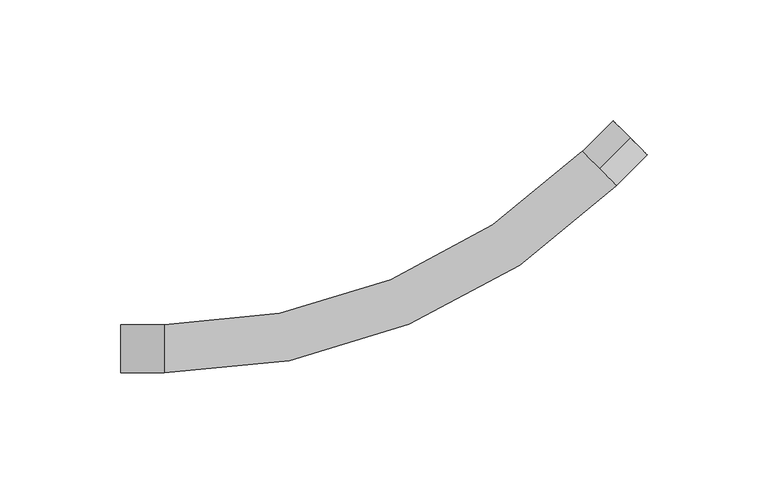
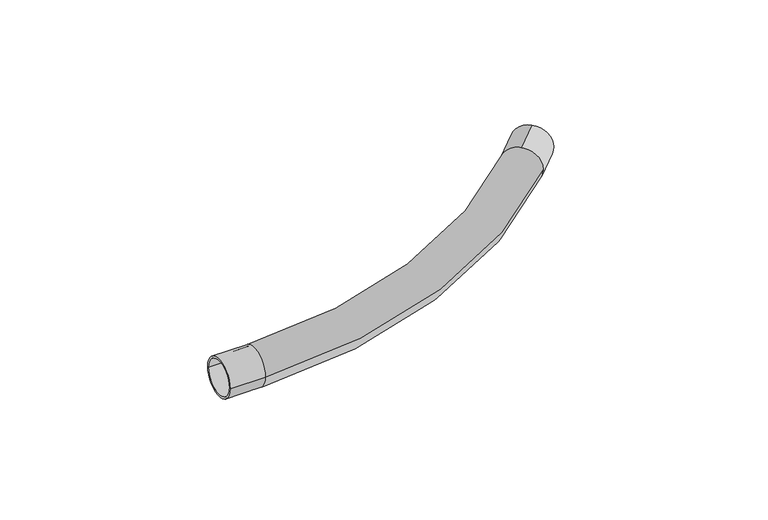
"""IFC4 building model written with IfcOpenShell, lengths in millimetres: cable carrier fitting geometry, КНС_МуфтаГибкаяТрубаТруба_IP65_DKC : Коробка."""

from ifc_helpers import new_model, si_unit, point, frame, origin, place, context, project, spatial, polyline, circle_curve, ellipse_curve, trimmed, source, transform, mapped, element, save
from ifc_brep_helpers import plane_surface, cylinder_surface, revolved_surface, advanced_brep


def cable_carrier_fitting_319fce00(model_context):
    return source(origin(), model_context, "Body", "AdvancedBrep", [
        advanced_brep(
        [(-123.4786175, -10.0, 0.0), (-123.4786175, 10.0, 0.0), (-123.4786175, -9.0, 0.0), (-123.4786175, 9.0, 0.0), (-105.4786175, -10.0, 0.0), (-105.4786175, 10.0, 0.0), (-105.4786175, -9.0, 0.0), (-105.4786175, 9.0, 0.0), (74.5846457, 74.5846457, 9.0), (74.5846457, 74.5846457, -9.0), (81.6557135, 67.5135779, 0.0), (74.5846457, 74.5846457, 10.0), (67.5135779, 81.6557135, 0.0), (74.5846457, 74.5846457, -10.0), (87.3125678, 87.3125678, -10.0), (87.3125678, 87.3125678, 10.0), (87.3125678, 87.3125678, -9.0), (87.3125678, 87.3125678, 9.0)],
        [
            (0, 1, circle_curve(frame((-123.4786175, 0.0, 0.0), z_axis=(-1.0, 0.0, 0.0), x_axis=(0.0, 1.0, 0.0)), 10.0)),
            (1, 0, circle_curve(frame((-123.4786175, 0.0, 0.0), z_axis=(-1.0, 0.0, 0.0), x_axis=(0.0, 1.0, 0.0)), 10.0)),
            (2, 3, circle_curve(frame((-123.4786175, 0.0, 0.0), z_axis=(1.0, 0.0, 0.0), x_axis=(0.0, 1.0, 0.0)), 9.0)),
            (3, 2, circle_curve(frame((-123.4786175, 0.0, 0.0), z_axis=(1.0, 0.0, 0.0), x_axis=(0.0, 1.0, 0.0)), 9.0)),
            (0, 4),
            (4, 5, circle_curve(frame((-105.4786175, 0.0, 0.0), z_axis=(-1.0, 0.0, 0.0), x_axis=(0.0, 1.0, 0.0)), 10.0)),
            (5, 1),
            (5, 4, circle_curve(frame((-105.4786175, 0.0, 0.0), z_axis=(-1.0, 0.0, 0.0), x_axis=(0.0, 1.0, 0.0)), 10.0)),
            (2, 6),
            (6, 7, circle_curve(frame((-105.4786175, 0.0, 0.0), z_axis=(1.0, 0.0, 0.0), x_axis=(0.0, 1.0, 0.0)), 9.0)),
            (7, 3),
            (7, 6, circle_curve(frame((-105.4786175, 0.0, 0.0), z_axis=(1.0, 0.0, 0.0), x_axis=(0.0, 1.0, 0.0)), 9.0)),
            (8, 9, circle_curve(frame((74.5846457, 74.5846457, 0.0), z_axis=(0.7071067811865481, 0.707106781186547, 0.0), x_axis=(0.0, 0.0, 1.0)), 9.0)),
            (9, 8, circle_curve(frame((74.5846457, 74.5846457, 0.0), z_axis=(0.7071067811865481, 0.707106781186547, 0.0), x_axis=(0.0, 0.0, 1.0)), 9.0)),
            (4, 10, circle_curve(frame((-105.4786175, 254.6479089, 0.0), z_axis=(0.0, 0.0, 1.0), x_axis=(0.7071067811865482, -0.7071067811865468, 0.0)), 264.6479089)),
            (10, 11, circle_curve(frame((74.5846457, 74.5846457, 0.0), z_axis=(-0.7071067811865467, -0.7071067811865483, 0.0), x_axis=(0.7071067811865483, -0.7071067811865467, 0.0)), 10.0)),
            (11, 12, circle_curve(frame((74.5846457, 74.5846457, 0.0), z_axis=(-0.7071067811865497, -0.7071067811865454, 0.0), x_axis=(0.7071067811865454, -0.7071067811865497, 0.0)), 10.0)),
            (12, 5, circle_curve(frame((-105.4786175, 254.6479089, 0.0), z_axis=(0.0, 0.0, -1.0), x_axis=(0.7071067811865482, -0.7071067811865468, 0.0)), 244.6479089)),
            (12, 13, circle_curve(frame((74.5846457, 74.5846457, 0.0), z_axis=(-0.7071067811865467, -0.7071067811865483, 0.0), x_axis=(0.7071067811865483, -0.7071067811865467, 0.0)), 10.0)),
            (13, 10, circle_curve(frame((74.5846457, 74.5846457, 0.0), z_axis=(-0.7071067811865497, -0.7071067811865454, 0.0), x_axis=(0.7071067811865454, -0.7071067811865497, 0.0)), 10.0)),
            (14, 15, circle_curve(frame((87.3125678, 87.3125678, 0.0), z_axis=(0.7071067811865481, 0.707106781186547, 0.0), x_axis=(0.0, 0.0, 1.0)), 10.0)),
            (15, 14, circle_curve(frame((87.3125678, 87.3125678, 0.0), z_axis=(0.7071067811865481, 0.707106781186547, 0.0), x_axis=(0.0, 0.0, 1.0)), 10.0)),
            (16, 17, circle_curve(frame((87.3125678, 87.3125678, 0.0), z_axis=(-0.7071067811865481, -0.707106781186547, 0.0), x_axis=(0.0, 0.0, 1.0)), 9.0)),
            (17, 16, circle_curve(frame((87.3125678, 87.3125678, 0.0), z_axis=(-0.7071067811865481, -0.707106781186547, 0.0), x_axis=(0.0, 0.0, 1.0)), 9.0)),
            (14, 13),
            (11, 15),
            (16, 9),
            (8, 17),
        ],
        [
            plane_surface(frame((-123.4786175, 0.0, 0.0), z_axis=(-1.0, 0.0, 0.0), x_axis=(0.0, 0.0, 1.0))),
            cylinder_surface(frame((-123.4786175, 0.0, 0.0), z_axis=(-1.0, 0.0, 0.0), x_axis=(0.0, 1.0, 0.0)), 10.0),
            revolved_surface(polyline([(-105.4786175, 9.0, 0.0), (-123.4786175, 9.0, 0.0)]), (-123.4786175, 0.0, 0.0), (1.0, 0.0, 0.0)),
            plane_surface(frame((74.5846457, 74.5846457, 0.0), z_axis=(0.7071067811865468, 0.7071067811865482, 0.0), x_axis=(0.0, 0.0, 1.0))),
            plane_surface(frame((-105.4786175, 0.0, 0.0), z_axis=(-1.0, 0.0, 0.0), x_axis=(0.0, 0.0, 1.0))),
            revolved_surface(trimmed(ellipse_curve(frame((74.5846457, 74.5846457, 0.0), z_axis=(0.7071067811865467, 0.7071067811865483, 0.0), x_axis=(0.7071067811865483, -0.7071067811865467, 0.0)), 10.0, 10.0), [point((67.5135779, 81.6557135, 0.0))], [point((81.6557135, 67.5135779, 0.0))], True, "CARTESIAN"), (-105.4786175, 254.6479089, 0.0), (0.0, 0.0, -1.0)),
            revolved_surface(trimmed(ellipse_curve(frame((74.5846457, 74.5846457, 0.0), z_axis=(0.7071067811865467, 0.7071067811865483, 0.0), x_axis=(0.7071067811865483, -0.7071067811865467, 0.0)), 10.0, 10.0), [point((81.6557135, 67.5135779, 0.0))], [point((67.5135779, 81.6557135, 0.0))], True, "CARTESIAN"), (-105.4786175, 254.6479089, 0.0), (0.0, 0.0, -1.0)),
            plane_surface(frame((87.3125678, 87.3125678, 10.0), z_axis=(0.707106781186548, 0.7071067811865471, 0.0), x_axis=(0.7071067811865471, -0.707106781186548, 0.0))),
            cylinder_surface(frame((74.5846457, 74.5846457, 0.0), z_axis=(0.7071067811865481, 0.707106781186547, 0.0), x_axis=(0.0, 0.0, 1.0)), 10.0),
            revolved_surface(polyline([(74.5846457, 74.5846457, 9.0), (87.31256780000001, 87.31256779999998, 9.0)]), (74.5846457, 74.5846457, 0.0), (-0.7071067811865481, -0.707106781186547, 0.0)),
        ],
        [
            (0, [[1, 2], [3, 4]]),
            (1, [[-1, 5, 6, 7]]),
            (1, [[-2, -7, 8, -5]]),
            (2, [[-3, 9, 10, 11]]),
            (2, [[-4, -11, 12, -9]]),
            (3, [[13, 14]]),
            (4, [[-10, -12]]),
            (5, [[15, 16, 17, 18, -6]]),
            (6, [[-15, -8, -18, 19, 20]]),
            (7, [[21, 22], [23, 24]]),
            (8, [[-21, 25, -19, -17, 26]]),
            (8, [[-22, -26, -16, -20, -25]]),
            (9, [[-23, 27, -13, 28]]),
            (9, [[-24, -28, -14, -27]]),
        ],
    ),
    ])


if __name__ == "__main__":
    model = new_model("IFC4")
    model_context = context("Model", 3, world=origin())
    ifc_project = project(units=[si_unit("LENGTHUNIT", "METRE", prefix="MILLI")], contexts=[model_context])
    site = spatial("IfcSite", under=ifc_project)
    building = spatial("IfcBuilding", under=site)
    placement = place(None, origin())
    cable_carrier_fitting_shape = cable_carrier_fitting_319fce00(model_context)
    element("IfcCableCarrierFitting", 1, ObjectType="КНС_МуфтаГибкаяТрубаТруба_IP65_DKC : Коробка", at=placement, inside=building, context=model_context, shape_type="MappedRepresentation", body=[
        mapped(cable_carrier_fitting_shape, transform((0.0, 0.0, 0.0), x_axis=(1.0, 0.0, 0.0), y_axis=(0.0, 1.0, 0.0), z_axis=(0.0, 0.0, 1.0))),
    ])
    save(model, "model.ifc")
